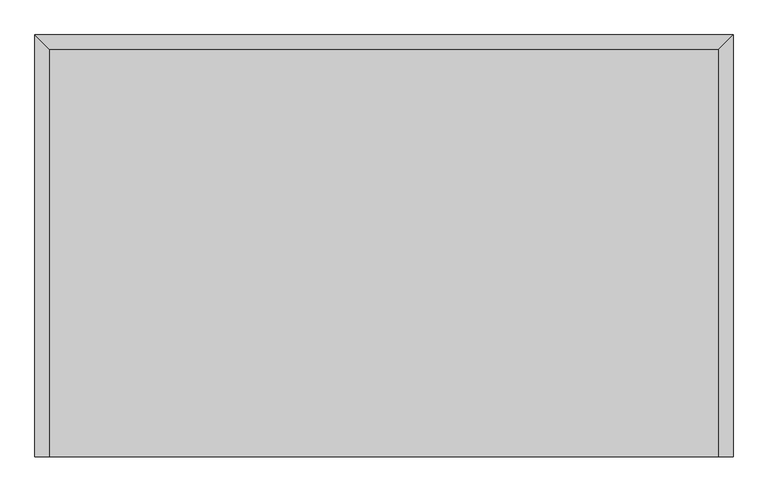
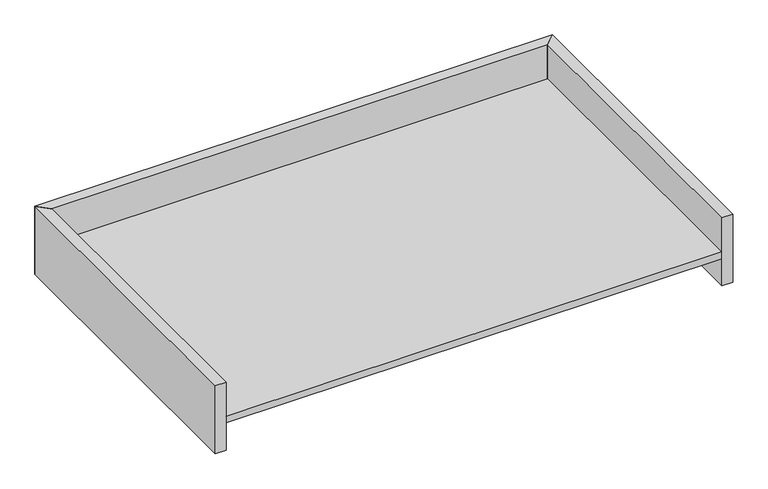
"""IFC4 building model written with IfcOpenShell, lengths in millimetres: proxy geometry, FOUNDATION^OPEN OFFICE 3_43.5x72 FRONT TRANSACTION-PARTS SOLID."""

from ifc_helpers import new_model, si_unit, frame, origin, origin_with_axes, place, context, project, spatial, polyline, outline, extrude, source, transform, mapped, element, save


def generic_models_c0d02f84(model_context):
    return source(origin(), model_context, "Body", "SweptSolid", [
        extrude(outline(polyline([(1790.7, 1066.8), (1828.8, 1104.9), (1828.8, 0.0), (1790.7, 0.0), (1790.7, 1066.8)])), origin_with_axes(), (0.0, 0.0, 1.0), 254.0),
        extrude(outline(polyline([(0.0, 1104.9), (1828.8, 1104.9), (1790.7, 1066.8), (38.1, 1066.8), (0.0, 1104.9)])), origin_with_axes(), (0.0, 0.0, 1.0), 254.0),
        extrude(outline(polyline([(38.1, 0.0), (0.0, 0.0), (0.0, 1104.9), (38.1, 1066.8), (38.1, 0.0)])), origin_with_axes(), (0.0, 0.0, 1.0), 254.0),
        extrude(outline(polyline([(1790.7, 1066.8), (1790.7, 0.0), (38.1, 0.0), (38.1, 1066.8), (1790.7, 1066.8)])), frame((0.0, 0.0, 101.6), z_axis=(0.0, 0.0, 1.0), x_axis=(1.0, 0.0, 0.0)), (0.0, 0.0, 1.0), 25.4),
    ])


if __name__ == "__main__":
    model = new_model("IFC4")
    model_context = context("Model", 3, world=origin())
    ifc_project = project(units=[si_unit("LENGTHUNIT", "METRE", prefix="MILLI")], contexts=[model_context])
    site = spatial("IfcSite", under=ifc_project)
    building = spatial("IfcBuilding", under=site)
    placement = place(None, origin())
    generic_models_shape = generic_models_c0d02f84(model_context)
    element("IfcBuildingElementProxy", 1, Name="FOUNDATION^OPEN OFFICE 3_43.5x72 FRONT TRANSACTION-PARTS SOLID", ObjectType="FOUNDATION^OPEN OFFICE 3_43.5x72 FRONT TRANSACTION-PARTS SOLID", at=placement, inside=building, context=model_context, shape_type="MappedRepresentation", body=[
        mapped(generic_models_shape, transform((0.0, 0.0, 0.0), x_axis=(1.0, 0.0, 0.0), y_axis=(0.0, 1.0, 0.0), z_axis=(0.0, 0.0, 1.0))),
    ])
    save(model, "model.ifc")
